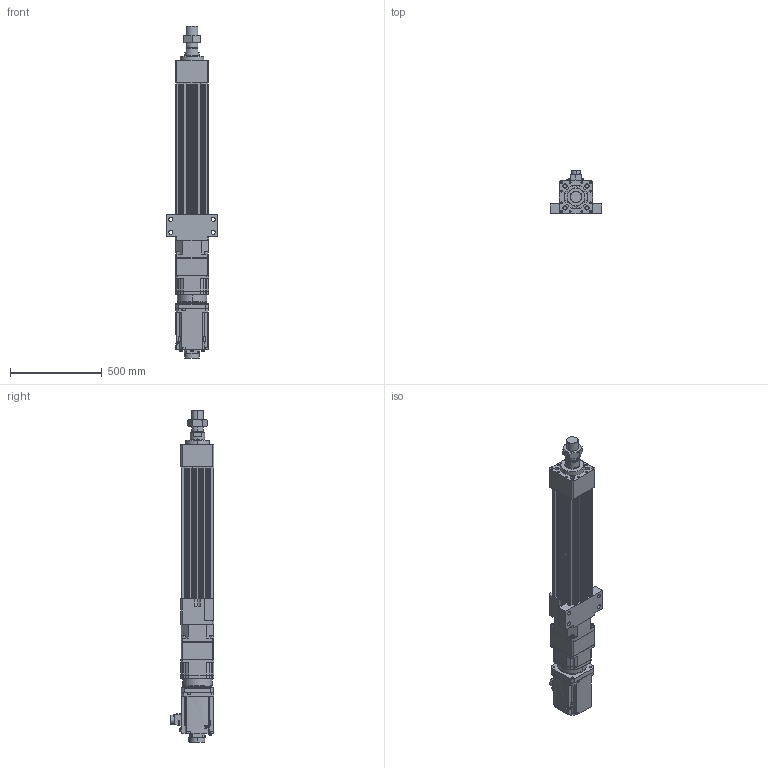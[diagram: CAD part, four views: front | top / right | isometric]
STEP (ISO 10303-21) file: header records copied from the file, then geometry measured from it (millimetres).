
FILE_DESCRIPTION (( 'STEP AP203' ), '1' );
FILE_NAME ('HES180HS-S400-W070G00-M-FFC.STEP', '2026-06-10T06:53:21', ( 'tms' ), ( '' ), 'SwSTEP 2.0', 'SolidWorks 2013', '' );
FILE_SCHEMA (( 'CONFIG_CONTROL_DESIGN' ));
Length unit declared in the file: millimetre
Products named in the file (9): AB1803; HES180HS-S400-W070G00-M-FFC; AB1801; HES180-S-G180; HES180-M-ROD-400; AB1802; HG-SR702B; M64X2.0P; HES180-FFC-400
Assembly tree (8 placements, depth 2):
  HES180HS-S400-W070G00-M-FFC
    HES180-FFC-400
    HES180-M-ROD-400
    M64X2.0P
    HES180-S-G180
    AB1801
    AB1802
    AB1803
    HG-SR702B
Bounding box: 280 x 239.1 x 1805.74 mm (x, y, z)
Volume: 28067395.4 mm3; surface area: 2523346.8 mm2
Topology: 5 solids, 20 shells, 1590 faces, 4113 edges, 2664 vertices
Faces by surface type: cylinder 720, plane 637, cone 166, bspline 63, torus 4
Entity records: 57254 total; most frequent: CARTESIAN_POINT 16780, DIRECTION 8535, ORIENTED_EDGE 8102, EDGE_CURVE 4075, AXIS2_PLACEMENT_3D 3199, VERTEX_POINT 2664, VECTOR 2137, LINE 2137
